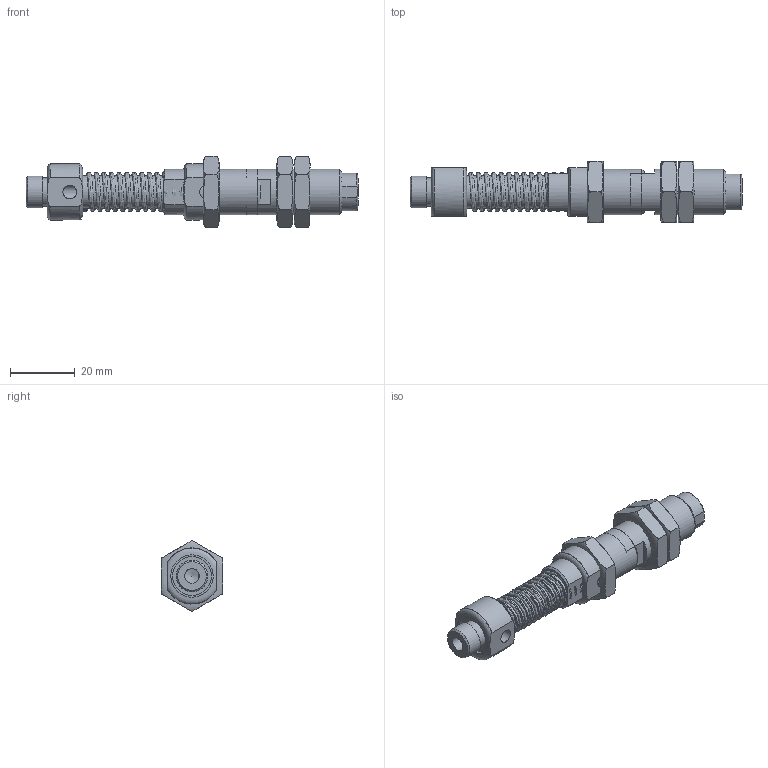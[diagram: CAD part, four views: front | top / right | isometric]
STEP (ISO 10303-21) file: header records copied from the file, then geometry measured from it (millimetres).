
FILE_DESCRIPTION( ( 'Unknown' ), '1' );
FILE_NAME( 'C:/Documents and Settings/Owner/官帕 拳搁/LEVEL SPRING HOMEPAGE/L18 Series/L1830/L1830.stp', 'Unknown', ( 'Unknown' ), ( 'Unknown' ), 'PSStep 10.0', 'Unknown', ' ' );
FILE_SCHEMA( ( 'AUTOMOTIVE_DESIGN { 1 0 10303 214 1 1 1 1 }' ) );
Length unit declared in the file: millimetre
Products named in the file (7): Assem1; SHA; NIPPLE; HOU; END CAP; NUT(M14XP1.5); spring
Bounding box: 102.5 x 19 x 21.94 mm (x, y, z)
Surface area: 22788.8 mm2 (no closed solid volume)
Topology: 0 solids, 151 shells, 151 faces, 563 edges, 492 vertices
Faces by surface type: plane 68, cylinder 43, cone 26, revolution 12, bspline 2
Full cylindrical faces by diameter (mm): 4.2 x2, 4.5 x2, 5 x4, 6 x4, 6.8 x2, 7 x2, 8 x4, 8.8 x2, 9.8 x2, 10 x4, 12 x2, 14 x5
Entity records: 6241 total; most frequent: CARTESIAN_POINT 3755, DIRECTION 383, ORIENTED_EDGE 210, EDGE_CURVE 210, VERTEX_POINT 210, AXIS2_PLACEMENT_3D 165, FACE_BOUND 115, EDGE_LOOP 115
